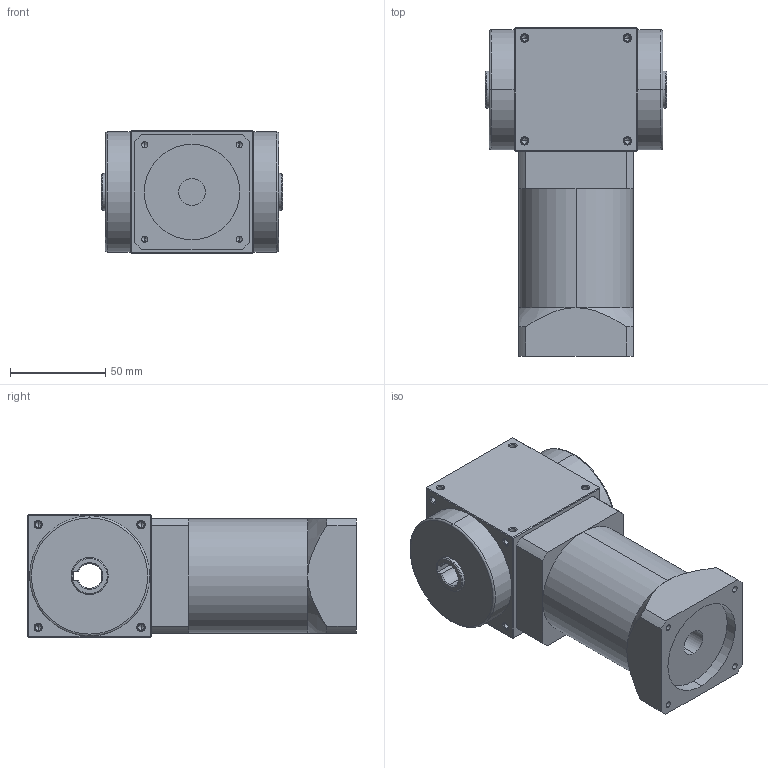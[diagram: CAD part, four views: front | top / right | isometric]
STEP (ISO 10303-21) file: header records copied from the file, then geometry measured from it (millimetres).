
FILE_DESCRIPTION (( 'STEP AP214' ), '1' );
FILE_NAME ('AT065-FH-L2-400W.STEP', '2019-09-12T08:15:01', ( 'User' ), ( 'Far123' ), 'SwSTEP 2.0', 'SolidWorks 2015', '' );
FILE_SCHEMA (( 'AUTOMOTIVE_DESIGN' ));
Length unit declared in the file: millimetre
Products named in the file (1): AT065-FH-L2-400W
Bounding box: 95 x 172.5 x 65 mm (x, y, z)
Volume: 660176.5 mm3; surface area: 61499.9 mm2
Topology: 1 solids, 1 shells, 267 faces, 670 edges, 364 vertices
Faces by surface type: cylinder 113, cone 102, plane 48, torus 4
Entity records: 8610 total; most frequent: CARTESIAN_POINT 1722, ORIENTED_EDGE 1244, DIRECTION 1242, EDGE_CURVE 622, AXIS2_PLACEMENT_3D 476, VERTEX_POINT 364, EDGE_LOOP 300, LINE 290
